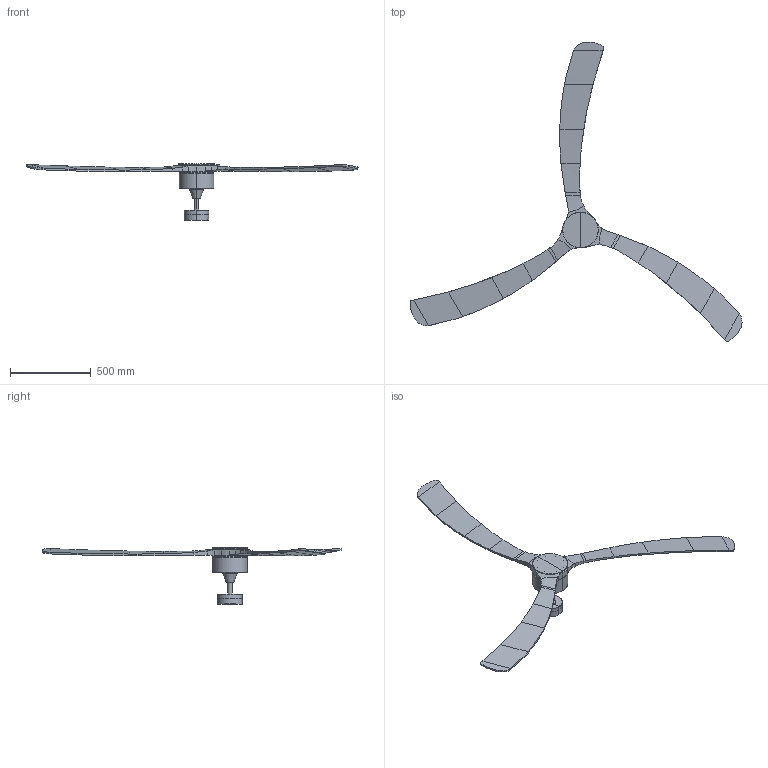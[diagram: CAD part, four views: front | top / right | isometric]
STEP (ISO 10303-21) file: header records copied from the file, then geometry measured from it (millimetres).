
FILE_DESCRIPTION(/* description */ (''),/* implementation_level */ '2;1');
FILE_NAME(/* name */ '.STEP',/* time_stamp */ '2024-04-11T12:01:22+02:00',/* author */ ('RenataManzini'),/* organization */ (''),/* preprocessor_version */ 'ST-DEVELOPER v20',/* originating_system */ 'AutoCAD Mechanical',/* authorisation */ '');
FILE_SCHEMA (('AUTOMOTIVE_DESIGN { 1 0 10303 214 3 1 1 }'));
Length unit declared in the file: millimetre
Products named in the file (2): Product; 34200_ 34200WP_ - LANTAU-463463-Export
Assembly tree (1 placements, depth 2):
  Product
    34200_ 34200WP_ - LANTAU-463463-Export
Bounding box: 2060.78 x 1859.13 x 349.2 mm (x, y, z)
Volume: 11296871.9 mm3; surface area: 1491607.8 mm2
Topology: 6 solids, 6 shells, 318 faces, 853 edges, 559 vertices
Faces by surface type: cylinder 171, plane 79, bspline 50, torus 12, cone 6
Entity records: 11899 total; most frequent: CARTESIAN_POINT 4410, ORIENTED_EDGE 1700, DIRECTION 1279, EDGE_CURVE 850, VERTEX_POINT 554, AXIS2_PLACEMENT_3D 468, EDGE_LOOP 358, LINE 343
